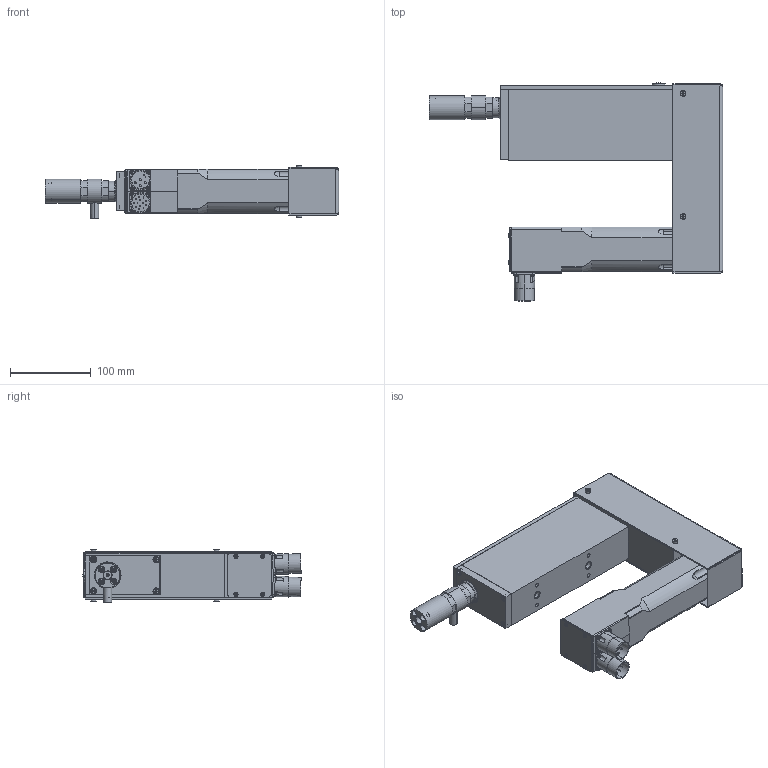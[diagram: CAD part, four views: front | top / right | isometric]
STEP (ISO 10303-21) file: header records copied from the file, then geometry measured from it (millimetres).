
FILE_DESCRIPTION (( 'STEP AP203' ), '1' );
FILE_NAME ('KM PR5PP010-010-040H.STEP', '2021-02-03T11:15:40', ( '' ), ( '' ), 'SwSTEP 2.0', 'SolidWorks 2016', '' );
FILE_SCHEMA (( 'CONFIG_CONTROL_DESIGN' ));
Products named in the file (1): KM PR5PP010-010-040H
Bounding box: 362.5 x 269.51 x 66.3 mm (x, y, z)
Volume: 1799333.7 mm3; surface area: 391386.8 mm2
Topology: 29 solids, 41 shells, 2161 faces, 5031 edges, 2972 vertices
Faces by surface type: plane 1000, cylinder 599, cone 412, bspline 95, torus 42, sphere 13
Entity records: 64035 total; most frequent: CARTESIAN_POINT 15961, DIRECTION 10133, ORIENTED_EDGE 9710, EDGE_CURVE 4855, AXIS2_PLACEMENT_3D 3878, VERTEX_POINT 2959, EDGE_LOOP 2480, VECTOR 2377
